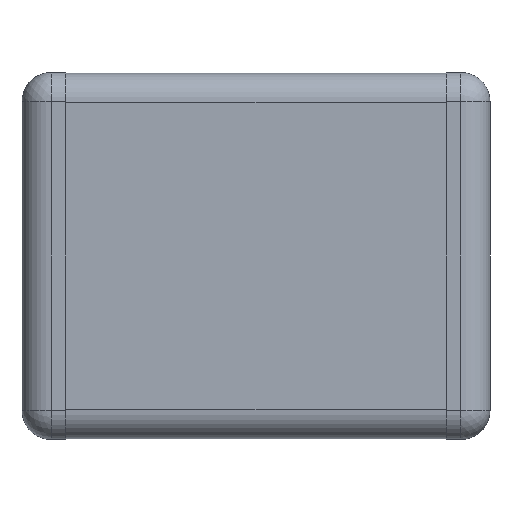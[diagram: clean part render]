
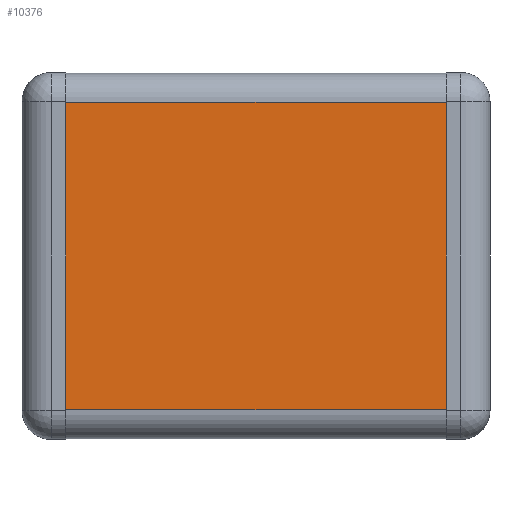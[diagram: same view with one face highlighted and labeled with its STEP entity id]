
A CAD part, front view. The second image highlights one B-rep face of the part: STEP entity #10376.
In plain terms, the highlighted planar face has unit normal (0, -1, 0).
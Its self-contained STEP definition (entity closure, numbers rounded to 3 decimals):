
#1=DIRECTION('',(0.,0.,-1.));
#2=VECTOR('',#1,2.1);
#3=CARTESIAN_POINT('',(-1.3,-0.575,1.05));
#4=LINE('',#3,#2);
#5=DIRECTION('',(-1.,0.,0.));
#6=VECTOR('',#5,2.6);
#7=CARTESIAN_POINT('',(1.3,-0.575,1.05));
#8=LINE('',#7,#6);
#9=DIRECTION('',(0.,0.,-1.));
#10=VECTOR('',#9,2.1);
#11=CARTESIAN_POINT('',(1.3,-0.575,1.05));
#12=LINE('',#11,#10);
#13=DIRECTION('',(1.,0.,0.));
#14=VECTOR('',#13,2.6);
#15=CARTESIAN_POINT('',(-1.3,-0.575,-1.05));
#16=LINE('',#15,#14);
#7873=CARTESIAN_POINT('',(-1.3,-0.575,1.05));
#7874=CARTESIAN_POINT('',(-1.3,-0.575,-1.05));
#7875=VERTEX_POINT('',#7873);
#7876=VERTEX_POINT('',#7874);
#7889=CARTESIAN_POINT('',(1.3,-0.575,1.05));
#7890=CARTESIAN_POINT('',(1.3,-0.575,-1.05));
#7891=VERTEX_POINT('',#7889);
#7892=VERTEX_POINT('',#7890);
#10361=CARTESIAN_POINT('',(0.,-0.575,0.));
#10362=DIRECTION('',(0.,1.,0.));
#10363=DIRECTION('',(1.,0.,0.));
#10364=AXIS2_PLACEMENT_3D('',#10361,#10362,#10363);
#10365=PLANE('',#10364);
#10367=ORIENTED_EDGE('',*,*,#10366,.F.);
#10369=ORIENTED_EDGE('',*,*,#10368,.F.);
#10371=ORIENTED_EDGE('',*,*,#10370,.T.);
#10373=ORIENTED_EDGE('',*,*,#10372,.F.);
#10374=EDGE_LOOP('',(#10367,#10369,#10371,#10373));
#10375=FACE_OUTER_BOUND('',#10374,.F.);
#10376=ADVANCED_FACE('',(#10375),#10365,.F.);
#10366=EDGE_CURVE('',#7875,#7876,#4,.T.);
#10368=EDGE_CURVE('',#7891,#7875,#8,.T.);
#10370=EDGE_CURVE('',#7891,#7892,#12,.T.);
#10372=EDGE_CURVE('',#7876,#7892,#16,.T.);
